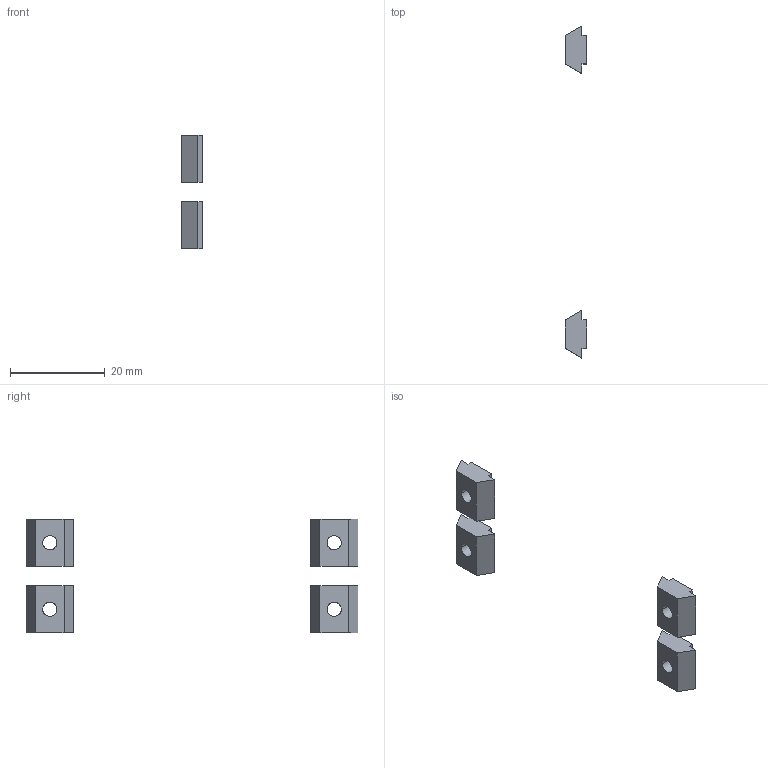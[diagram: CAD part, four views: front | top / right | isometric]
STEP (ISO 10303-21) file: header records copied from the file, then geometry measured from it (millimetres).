
FILE_DESCRIPTION(/* description */ (''),/* implementation_level */ '2;1');
FILE_NAME(/* name */ 'Y-5F29~1',/* time_stamp */ '2014-02-14T19:37:34+01:00',/* author */ (''),/* organization */ (''),/* preprocessor_version */ 'ST-DEVELOPER v14',/* originating_system */ '',/* authorisation */ '');
FILE_SCHEMA (('AUTOMOTIVE_DESIGN'));
Length unit declared in the file: millimetre
Products named in the file (2): Document; tslot nut, pre, M3
Assembly tree (2 placements, depth 2):
  Document
    tslot nut, pre, M3  x2
Bounding box: 4.5 x 70 x 24.02 mm (x, y, z)
Volume: 1232.6 mm3; surface area: 1427.5 mm2
Topology: 4 solids, 4 shells, 48 faces, 120 edges, 80 vertices
Faces by surface type: plane 40, bspline 8
Entity records: 2244 total; most frequent: CARTESIAN_POINT 911, B_SPLINE_CURVE_WITH_KNOTS 252, ORIENTED_EDGE 180, PCURVE 180, DEFINITIONAL_REPRESENTATION 180, SURFACE_CURVE 90, EDGE_CURVE 90, VERTEX_POINT 60
